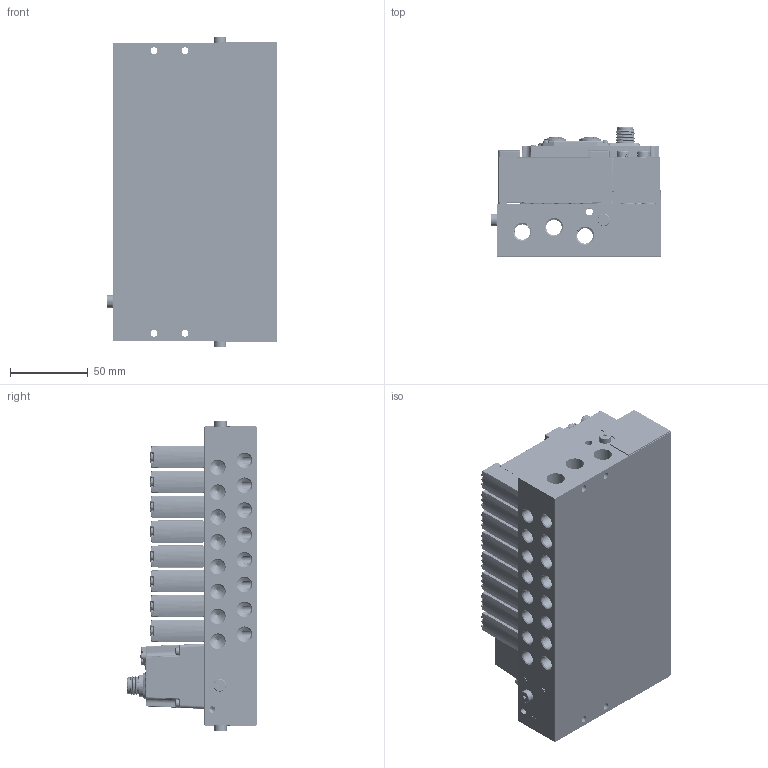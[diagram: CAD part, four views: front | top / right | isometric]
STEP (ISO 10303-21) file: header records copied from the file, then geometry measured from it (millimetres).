
FILE_DESCRIPTION((''),'2;1');
FILE_NAME('C3-L14-W-XBF-08_ASM','2026-06-22T13:28:58',('admin'),(''),'CREO PARAMETRIC BY PTC INC, 2022073','CREO PARAMETRIC BY PTC INC, 2022073','');
FILE_SCHEMA(('CONFIG_CONTROL_DESIGN'));
Products named in the file (49): 202300320_ASM-1_202300349-2-SOL; 202300320_ASM-1_202300314_ASM-1; 202300320_ASM-1_202300355-2-SOL; NONE-28191; 202300320_ASM-1_202300351-1-SOL; 202300320_ASM-1_202300144-1-SOL; 202300320_ASM-1_202300318_ASM-1; PRT0002-1-SOLID4; NONE-58678; 202300320_ASM-1_202300327-1-SOL; 202300320_ASM-1_202300353-1-SOL; 202300320_ASM-1_202300351-2-SOL; 202300320_ASM-1_202300349-1-SOL; PRT0002-1-SOLID2; NONE-145194; 202300320_ASM-1_202300355-1-SOL; 202300320_ASM-1_202300353-2-SOL; PRT0002-1-SOLID1; SURFACE-VGB14_ASM; 0001; C3-L14-W-XBF-08-95072; XBF_0001_ASM; M50001; C3-L14-W-XBF-08-60407_ASM; SURFACE-VGB14_ASM_1_ASM_1_ASM_1; M3X16-2-SOLID10001_1_1_1; M3X16-4-SOLID10001_1_1_1; SH794-1-1-SOLID1_1_1_1_1; SH794-1-1-SOLID1_1_2_1_1; SH794-1-1-SOLID1_1_3_1_1; SH794-1-1-SOLID1_1_ASM_1_ASM_1_ASM; M3X5-1-SOLID10001_1_1_1; M3X16-3-SOLID10001_1_1_1; M12D-2022_11_-70380001_1_1_1; M12D-2022_11_-82260001_1_1_1; M3X16-1-SOLID10001_1_1_1; NONE-196029_1_1_1; SH794-3-1-SOLID1_1_1_1; NONE-215390_1_1_1; M12A5-1-SOLID10001_1_1_1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
Assembly tree (87 placements, depth 9):
  C3-L14-W-XBF-08_ASM
    C3-L14-W-XBF-08-60407_ASM
      SURFACE-VGB14_ASM  x8
        202300320_ASM-1_202300349-2-SOL
        202300320_ASM-1_202300314_ASM-1
        202300320_ASM-1_202300355-2-SOL
        NONE-28191
        202300320_ASM-1_202300351-1-SOL
        202300320_ASM-1_202300144-1-SOL
        202300320_ASM-1_202300318_ASM-1
        PRT0002-1-SOLID4
        NONE-58678
        202300320_ASM-1_202300327-1-SOL
        202300320_ASM-1_202300353-1-SOL
        202300320_ASM-1_202300351-2-SOL
        202300320_ASM-1_202300349-1-SOL
        PRT0002-1-SOLID2
        NONE-145194
        202300320_ASM-1_202300355-1-SOL
        202300320_ASM-1_202300353-2-SOL
        PRT0002-1-SOLID1
      0001  x2
      C3-L14-W-XBF-08-95072
      XBF_0001_ASM
      M50001  x3
    C3EC_ASM
      C3-L14-W-XBF-24_ASM_ASM_1_ASM
        C3-L14-W-XBF-24_ASM_ASM_1_ASM_1_ASM
          C3-L14-W-XBF-24_ASM_1_ASM_1_ASM_ASM
            C3-L14-W-XBF-24-210887_ASM_1_AS_ASM
              SURFACE-VGB14_ASM_1_ASM_1_ASM_1  x24
              XBF_0001_ASM_1_ASM_1_ASM_1_ASM
                M3X16-2-SOLID10001_1_1_1
                M3X16-4-SOLID10001_1_1_1
                SH794-1-1-SOLID1_1_ASM_1_ASM_1_ASM
                  SH794-1-1-SOLID1_1_1_1_1
                  SH794-1-1-SOLID1_1_2_1_1
                  SH794-1-1-SOLID1_1_3_1_1
                M3X5-1-SOLID10001_1_1_1  x2
                M3X16-3-SOLID10001_1_1_1
                M12D-2022_11_-70380001_1_1_1
                M12D-2022_11_-82260001_1_1_1
                M3X16-1-SOLID10001_1_1_1
                NONE-196029_1_1_1
                SH794-3-1-SOLID1_1_1_1
                NONE-215390_1_1_1
                M12A5-1-SOLID10001_1_1_1
            _06--1-SOLID30001_1_1_1  x6
            IP_COVER_1_1_1
Bounding box: 110 x 83.3 x 200 mm (x, y, z)
Volume: 838147.6 mm3; surface area: 311582.1 mm2
Topology: 172 solids, 230 shells, 13523 faces, 34736 edges, 20483 vertices
Faces by surface type: cylinder 4664, plane 3505, torus 1437, bspline 1424, cone 1301, sphere 1107, extrusion 85
Entity records: 168091 total; most frequent: CARTESIAN_POINT 62571, DIRECTION 22004, ORIENTED_EDGE 21936, EDGE_CURVE 10976, AXIS2_PLACEMENT_3D 8571, VERTEX_POINT 7043, VECTOR 4862, EDGE_LOOP 4829
